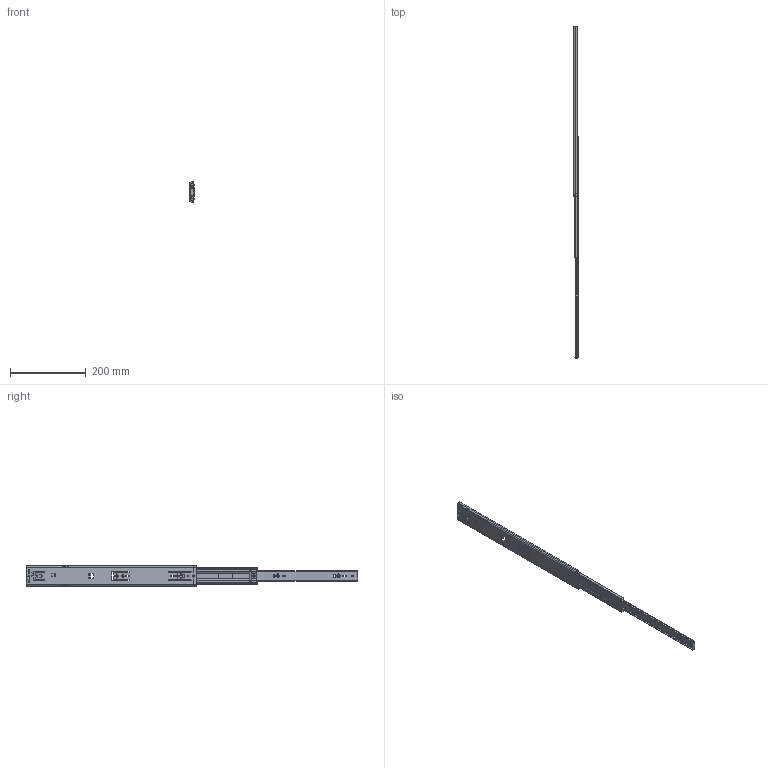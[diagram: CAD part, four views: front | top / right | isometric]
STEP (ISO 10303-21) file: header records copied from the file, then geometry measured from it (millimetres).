
FILE_DESCRIPTION( ( 'Unknown' ), '1' );
FILE_NAME( 'C:/Users/rd30/Desktop/85A01-450-Open.stp', 'Unknown', ( 'Unknown' ), ( 'Unknown' ), 'PSStep 14.0', 'Unknown', ' ' );
FILE_SCHEMA( ( 'AUTOMOTIVE_DESIGN { 1 0 10303 214 1 1 1 1 }' ) );
Length unit declared in the file: millimetre
Products named in the file (8): P10-366-3-1; P10-367-130429; 本體(卡式)20130423-\X2\4FEE6A21571\X0\; Assem1; 85A01P11-02-450; 85A01P21-03-450; 85A01P30-04-450; 85A01P30-04-B
Assembly tree (7 placements, depth 3):
  Assem1
    85A01P11-02-450
    85A01P21-03-450
    85A01P30-04-450
    85A01P30-04-B
    P10-366-3-1
      P10-367-130429
      本體(卡式)20130423-\X2\4FEE6A21571\X0\
Bounding box: 12.6 x 874.4 x 55.37 mm (x, y, z)
Volume: 168946.1 mm3; surface area: 143769.8 mm2
Topology: 6 solids, 6 shells, 610 faces, 1740 edges, 1140 vertices
Faces by surface type: plane 300, cylinder 258, cone 24, torus 24, bspline 2, sphere 2
Full cylindrical faces by diameter (mm): 1.4 x1, 3 x1, 3.2 x1, 4.6 x1, 5 x4, 5.1 x1, 5.5 x1, 6.25 x1, 6.4 x2
Entity records: 25308 total; most frequent: CARTESIAN_POINT 3817, DIRECTION 3454, ORIENTED_EDGE 3422, EDGE_CURVE 1711, AXIS2_PLACEMENT_3D 1194, VERTEX_POINT 1129, LINE 1066, VECTOR 1066
